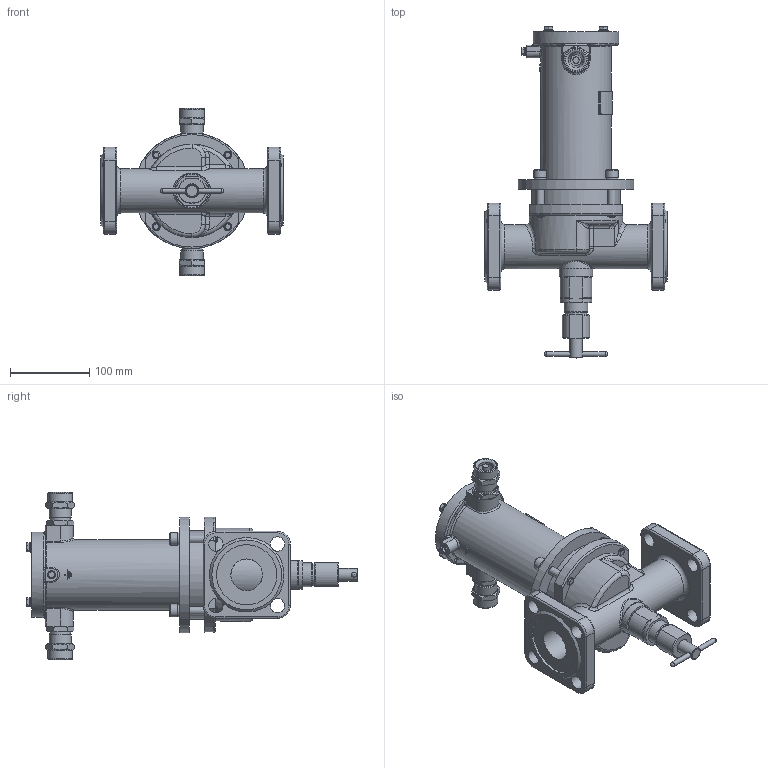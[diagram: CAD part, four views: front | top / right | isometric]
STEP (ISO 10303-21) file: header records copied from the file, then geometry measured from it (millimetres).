
FILE_DESCRIPTION(('STEP AP203'), '1');
FILE_NAME('ÑÅÍÑ DN40PN25-Â-ÍÎ.stp', '2018-09-19T08:52:16', ('Îðëîâ Å.Â.'), ('ÎÎÎ ÍÏÏ Ñåíñîð'), 'ASCON STEP Converter 1.3', 'Kompas 3D', '');
FILE_SCHEMA(('CONFIG_CONTROL_DESIGN','SUPPORT_RESOURCE_SCHEMA'));
Length unit declared in the file: millimetre
Products named in the file (1): 85
Bounding box: 230 x 419.2 x 211 mm (x, y, z)
Volume: 1663658.6 mm3; surface area: 404789.3 mm2
Topology: 2 solids, 19 shells, 1978 faces, 5249 edges, 3388 vertices
Faces by surface type: cylinder 1009, plane 726, cone 126, torus 50, bspline 47, extrusion 16, sphere 4
Full cylindrical faces by diameter (mm): 3.5 x2, 4.134 x1, 4.917 x4, 5 x1, 6 x10, 6.5 x4, 8 x8, 10 x9, 11 x4, 12 x4, 13 x2, 16 x6, 17 x2, 18 x9, 20 x5, 22 x2, 22.376 x2, 23 x1, 23.5 x2, 24 x2, 24.5 x2, 26 x4, 26.376 x2, 27.8 x1, 28 x3, 28.5 x2, 30 x2, 31 x2, 40 x2, 42 x1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
Entity records: 76886 total; most frequent: CARTESIAN_POINT 26648, DIRECTION 10905, ORIENTED_EDGE 10440, EDGE_CURVE 5220, AXIS2_PLACEMENT_3D 4188, VERTEX_POINT 3388, VECTOR 2529, LINE 2513
